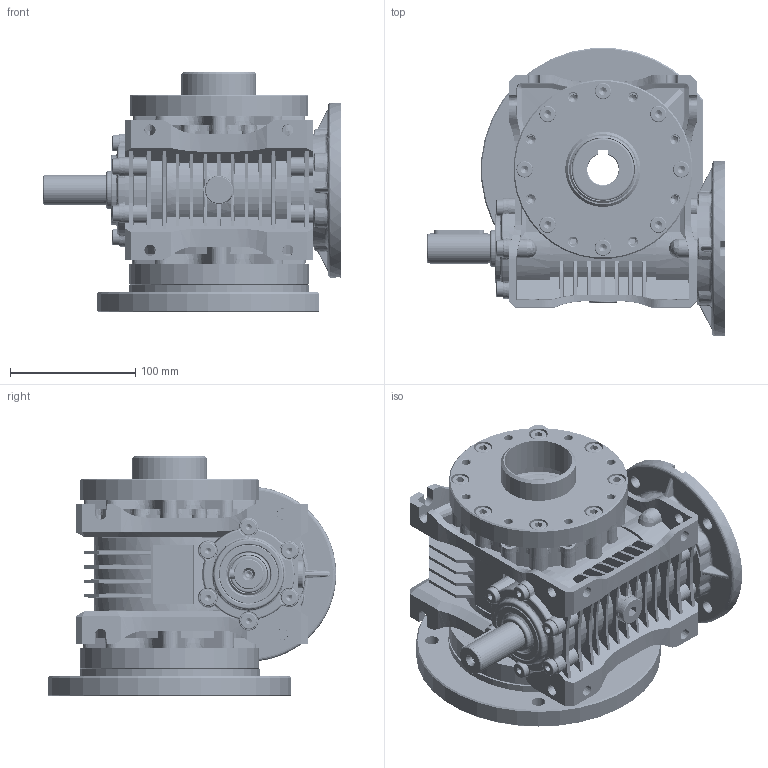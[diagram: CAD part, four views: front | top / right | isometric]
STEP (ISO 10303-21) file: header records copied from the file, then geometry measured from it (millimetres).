
FILE_DESCRIPTION (( 'STEP AP203' ), '1' );
FILE_NAME ('MRP-63-140-24-WBS-SO_1-KM_1-3D.STEP', '2024-10-28T13:41:47', ( '' ), ( '' ), 'SwSTEP 2.0', 'SolidWorks 2022', '' );
FILE_SCHEMA (( 'CONFIG_CONTROL_DESIGN' ));
Products named in the file (1): MRP-63-140-24-WBS-SO_1-KM_1-3D
Bounding box: 237 x 229.94 x 192 mm (x, y, z)
Volume: 2972293.5 mm3; surface area: 480184.9 mm2
Topology: 1 solids, 98 shells, 4614 faces, 11119 edges, 6747 vertices
Faces by surface type: plane 1453, cone 1089, bspline 905, cylinder 747, torus 382, sphere 38
Entity records: 154476 total; most frequent: CARTESIAN_POINT 53305, ORIENTED_EDGE 21966, DIRECTION 20374, EDGE_CURVE 10983, AXIS2_PLACEMENT_3D 8096, VERTEX_POINT 6747, EDGE_LOOP 4926, ADVANCED_FACE 4614
